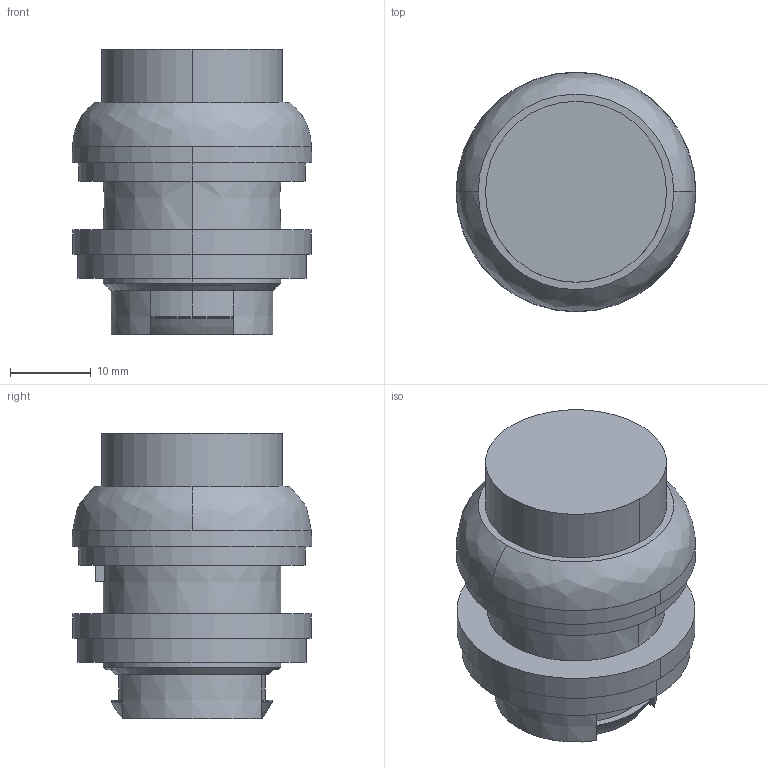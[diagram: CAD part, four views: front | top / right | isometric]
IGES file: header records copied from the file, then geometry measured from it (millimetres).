
Start section: Data from XPlus IGES,  Spatial Corp. Copyright (c) 1999-2004
Global section: file name: 216636.igs; native system:  By Spatial Corp.; preprocessor: XPlus ACIS/IGES 3.0; author: Noname; organization: Noname; date: 20120530.162431; units: millimetre
Bounding box: 29.7 x 29.7 x 35.4 mm (x, y, z)
Surface area: 4601.2 mm2 (no closed solid volume)
Topology: 0 solids, 0 shells, 66 faces, 340 edges, 340 vertices
Faces by surface type: revolution 35, extrusion 31
